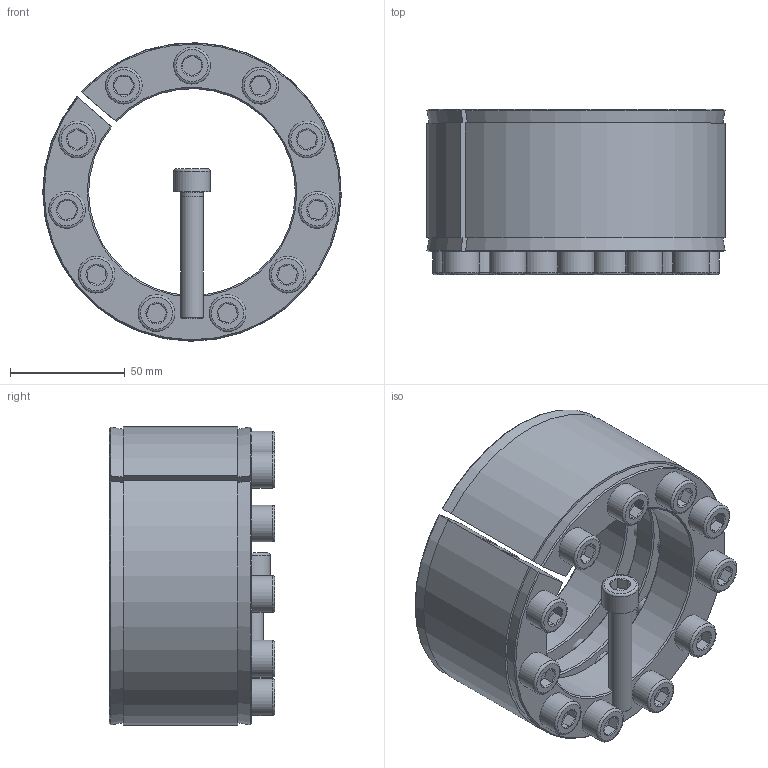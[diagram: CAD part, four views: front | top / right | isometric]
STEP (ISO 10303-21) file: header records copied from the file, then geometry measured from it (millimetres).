
FILE_DESCRIPTION( ( 'Unknown' ), '1' );
FILE_NAME( 'C:/Users/Frank/Eigene Daten/CAD/Solid Edge/KBK Karpstein/KBS Layout Baureihen/KBS 18/KBS - 90 x 130.stp', 'Unknown', ( 'Unknown' ), ( 'Unknown' ), 'XStep 1.0', 'Unknown', ' ' );
FILE_SCHEMA( ( 'automotive_design' ) );
Length unit declared in the file: millimetre
Products named in the file (3): Assem1; ISO EN DIN 4762 M10x55; KBS 18 - 90 x 130
Bounding box: 129.99 x 72 x 129.96 mm (x, y, z)
Volume: 713790.3 mm3; surface area: 217130.9 mm2
Topology: 14 solids, 14 shells, 440 faces, 996 edges, 588 vertices
Faces by surface type: plane 186, cylinder 122, cone 108, torus 24
Full cylindrical faces by diameter (mm): 8.376 x22, 9 x12, 10 x24, 11 x44, 16 x12
Entity records: 3864 total; most frequent: CARTESIAN_POINT 756, DIRECTION 554, ORIENTED_EDGE 456, AXIS2_PLACEMENT_3D 259, EDGE_CURVE 228, EDGE_LOOP 183, VERTEX_POINT 159, CIRCLE 151
